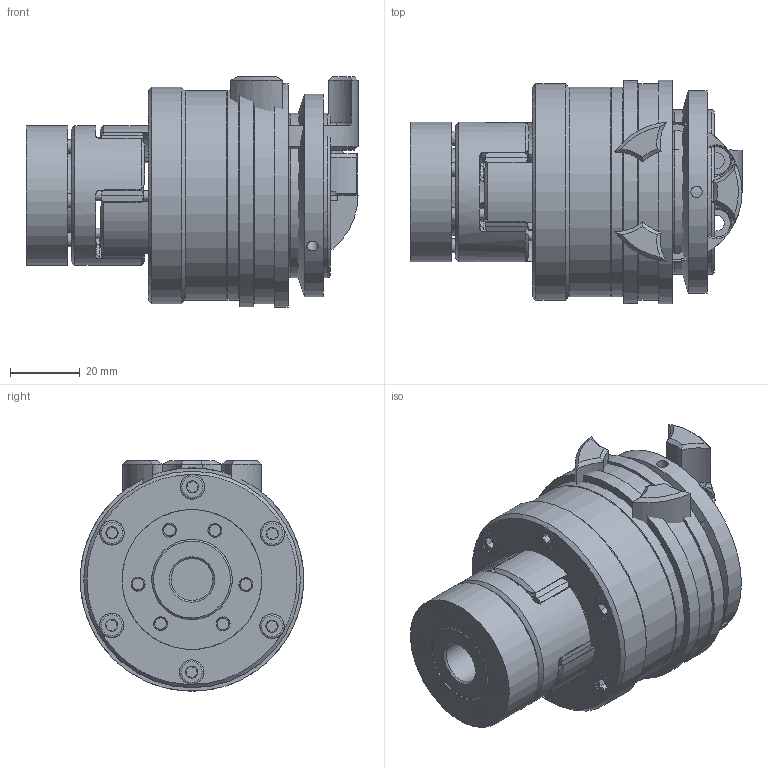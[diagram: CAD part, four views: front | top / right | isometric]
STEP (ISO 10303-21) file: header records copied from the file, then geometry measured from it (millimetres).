
FILE_DESCRIPTION( ( 'Unknown' ), '1' );
FILE_NAME( 'C:/Dokumente und Einstellungen/Sven/Desktop/hp kbk/E-AP/KBK EAP-19-76.stp', 'Unknown', ( 'Unknown' ), ( 'Unknown' ), 'XStep 1.0', 'Unknown', ' ' );
FILE_SCHEMA( ( 'automotive_design' ) );
Length unit declared in the file: millimetre
Products named in the file (15): Assem1; Assem2; ball_bearing_-_6005_0_01; ball_bearing_-_6005_0_02; ball_bearing_-_6005_0_03; L-P-30 Grundkörper; Stellring 30; Druckring 30; a_25; Flansch L30; Elastomerflansch 19; Zahnkranz_19; ISO EN DIN 4762_M4x16; KBE3-19_Druckring; KBE 3 C - 19_Nabe
Bounding box: 95 x 64 x 66 mm (x, y, z)
Volume: 273301.2 mm3; surface area: 147398.7 mm2
Topology: 40 solids, 40 shells, 1038 faces, 2276 edges, 1408 vertices
Faces by surface type: plane 356, cylinder 312, cone 239, torus 83, bspline 48
Full cylindrical faces by diameter (mm): 2 x4, 3 x12, 3.242 x18, 3.3 x18, 3.5 x13, 4 x26, 4.2 x12, 4.5 x12, 7 x25, 8 x14, 12 x2, 18 x4, 22 x2, 23.9 x2, 24.925 x2, 25 x7, 32 x6, 34 x2, 38 x4, 40 x6, 40.3 x6, 47 x7, 52 x2, 58 x2, 60 x4, 62 x2, 64 x2
Entity records: 11206 total; most frequent: CARTESIAN_POINT 2993, DIRECTION 1736, ORIENTED_EDGE 1416, AXIS2_PLACEMENT_3D 791, EDGE_CURVE 708, EDGE_LOOP 586, VERTEX_POINT 504, FACE_OUTER_BOUND 469
